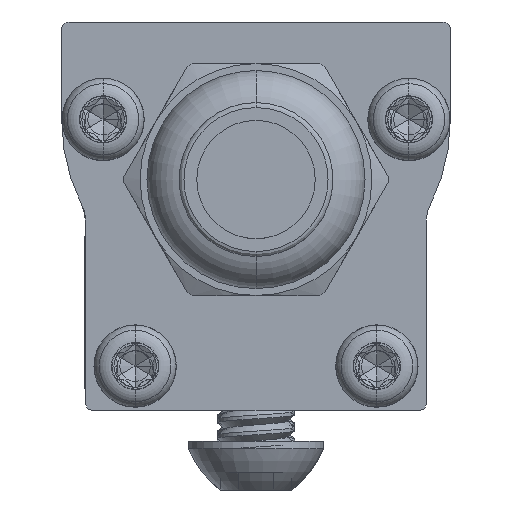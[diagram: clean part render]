
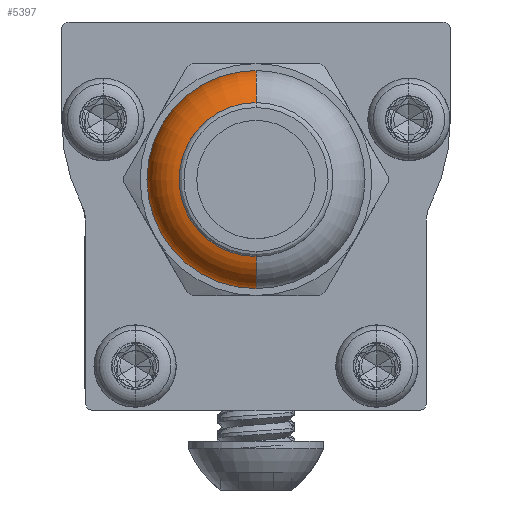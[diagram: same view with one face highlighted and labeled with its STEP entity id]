
A CAD part, left-side view. The second image highlights one B-rep face of the part: STEP entity #5397.
In plain terms, the highlighted toroidal (fillet/blend) face has major radius 3.518 mm and minor radius 2.095 mm.
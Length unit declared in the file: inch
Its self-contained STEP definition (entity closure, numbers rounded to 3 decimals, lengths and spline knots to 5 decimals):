
#369 = AXIS2_PLACEMENT_3D ( 'NONE', #24363, #12498, #12699 ) ;
#2507 = EDGE_LOOP ( 'NONE', ( #6467, #22315, #6197, #4373 ) ) ;
#2840 = CARTESIAN_POINT ( 'NONE',  ( -0.395, 0., -0.156 ) ) ;
#3642 = CARTESIAN_POINT ( 'NONE',  ( -0.395, 0., 0. ) ) ;
#3664 = AXIS2_PLACEMENT_3D ( 'NONE', #20406, #23014, #8795 ) ;
#4373 = ORIENTED_EDGE ( 'NONE', *, *, #16108, .F. ) ;
#4806 = VERTEX_POINT ( 'NONE', #2840 ) ;
#5397 = ADVANCED_FACE ( 'NONE', ( #25006 ), #13865, .T. ) ;
#6197 = ORIENTED_EDGE ( 'NONE', *, *, #23009, .F. ) ;
#6467 = ORIENTED_EDGE ( 'NONE', *, *, #27094, .F. ) ;
#8029 = AXIS2_PLACEMENT_3D ( 'NONE', #3642, #22696, #30610 ) ;
#8795 = DIRECTION ( 'NONE',  ( 0., 0., 1. ) ) ;
#9289 = DIRECTION ( 'NONE',  ( 0., 0., 1. ) ) ;
#9370 = EDGE_CURVE ( 'NONE', #13456, #4806, #26264, .T. ) ;
#11097 = VERTEX_POINT ( 'NONE', #20689 ) ;
#11366 = DIRECTION ( 'NONE',  ( 0., -1., 0. ) ) ;
#11715 = AXIS2_PLACEMENT_3D ( 'NONE', #28319, #16733, #9289 ) ;
#12498 = DIRECTION ( 'NONE',  ( -1., 0., 0. ) ) ;
#12699 = DIRECTION ( 'NONE',  ( 0., 0., 1. ) ) ;
#13456 = VERTEX_POINT ( 'NONE', #28738 ) ;
#13865 = TOROIDAL_SURFACE ( 'NONE', #369, 0.13852, 0.0825 ) ;
#16108 = EDGE_CURVE ( 'NONE', #25289, #11097, #19906, .T. ) ;
#16136 = DIRECTION ( 'NONE',  ( 0., 0., -1. ) ) ;
#16733 = DIRECTION ( 'NONE',  ( 1., 0., 0. ) ) ;
#19906 = CIRCLE ( 'NONE', #29999, 0.0825 ) ;
#20406 = CARTESIAN_POINT ( 'NONE',  ( -0.31437, 0., -0.13852 ) ) ;
#20689 = CARTESIAN_POINT ( 'NONE',  ( -0.395, 0., 0.156 ) ) ;
#22315 = ORIENTED_EDGE ( 'NONE', *, *, #9370, .T. ) ;
#22696 = DIRECTION ( 'NONE',  ( -1., 0., 0. ) ) ;
#22965 = CIRCLE ( 'NONE', #11715, 0.22102 ) ;
#23009 = EDGE_CURVE ( 'NONE', #11097, #4806, #28446, .T. ) ;
#23014 = DIRECTION ( 'NONE',  ( 0., 1., 0. ) ) ;
#24363 = CARTESIAN_POINT ( 'NONE',  ( -0.31437, 0., 0. ) ) ;
#25006 = FACE_OUTER_BOUND ( 'NONE', #2507, .T. ) ;
#25289 = VERTEX_POINT ( 'NONE', #26170 ) ;
#26170 = CARTESIAN_POINT ( 'NONE',  ( -0.31437, 0., 0.22102 ) ) ;
#26264 = CIRCLE ( 'NONE', #3664, 0.0825 ) ;
#27094 = EDGE_CURVE ( 'NONE', #13456, #25289, #22965, .T. ) ;
#28319 = CARTESIAN_POINT ( 'NONE',  ( -0.31437, 0., 0. ) ) ;
#28446 = CIRCLE ( 'NONE', #8029, 0.156 ) ;
#28738 = CARTESIAN_POINT ( 'NONE',  ( -0.31437, 0., -0.22102 ) ) ;
#29999 = AXIS2_PLACEMENT_3D ( 'NONE', #30122, #11366, #16136 ) ;
#30122 = CARTESIAN_POINT ( 'NONE',  ( -0.31437, 0., 0.13852 ) ) ;
#30610 = DIRECTION ( 'NONE',  ( 0., 0., 1. ) ) ;
